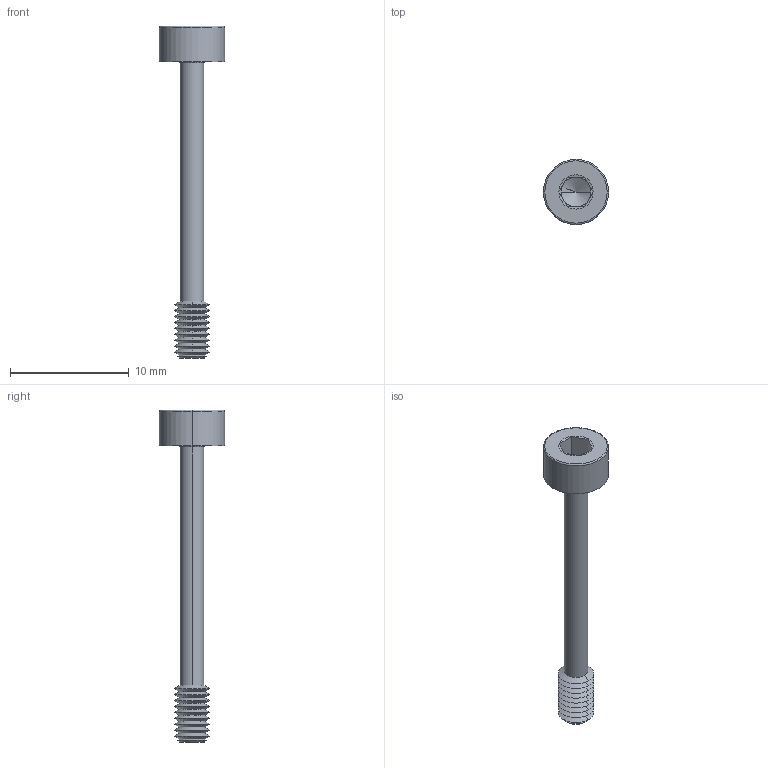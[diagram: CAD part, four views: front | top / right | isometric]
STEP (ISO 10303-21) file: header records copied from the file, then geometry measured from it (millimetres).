
FILE_DESCRIPTION (( 'STEP AP203' ), '1' );
FILE_NAME ('P0154.030-025-BL.step', '2024-06-17T11:23:21', ( '' ), ( '' ), 'SwSTEP 2.0', 'SolidWorks 2019', '' );
FILE_SCHEMA (( 'CONFIG_CONTROL_DESIGN' ));
Length unit declared in the file: millimetre
Products named in the file (1): P0154.030-025-BL
Bounding box: 5.5 x 5.5 x 28 mm (x, y, z)
Volume: 144.7 mm3; surface area: 323.8 mm2
Topology: 1 solids, 1 shells, 71 faces, 144 edges, 75 vertices
Faces by surface type: cone 48, plane 15, torus 4, cylinder 4
Entity records: 1887 total; most frequent: DIRECTION 352, CARTESIAN_POINT 315, ORIENTED_EDGE 284, AXIS2_PLACEMENT_3D 144, EDGE_CURVE 142, VERTEX_POINT 75, EDGE_LOOP 73, CIRCLE 72
